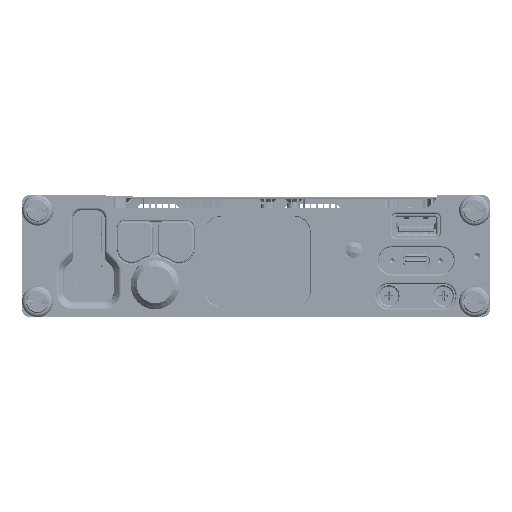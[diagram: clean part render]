
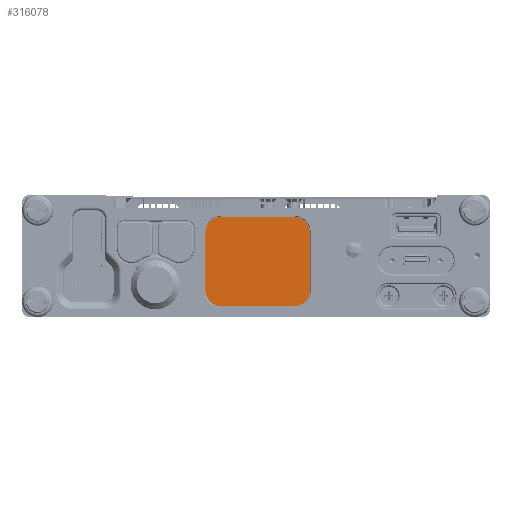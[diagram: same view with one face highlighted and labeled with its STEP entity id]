
A CAD part, top view. The second image highlights one B-rep face of the part: STEP entity #316078.
In plain terms, the highlighted planar face has unit normal (0, 0, 1).
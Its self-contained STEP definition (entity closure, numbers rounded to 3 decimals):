
#4911 = CARTESIAN_POINT ( 'NONE',  ( -8.985, -10.025, 3.48 ) ) ;
#18422 = VERTEX_POINT ( 'NONE', #301399 ) ;
#24819 = AXIS2_PLACEMENT_3D ( 'NONE', #4911, #224838, #650200 ) ;
#48424 = LINE ( 'NONE', #116708, #476666 ) ;
#60660 = ORIENTED_EDGE ( 'NONE', *, *, #175668, .T. ) ;
#70037 = CIRCLE ( 'NONE', #311857, 5. ) ;
#70892 = CARTESIAN_POINT ( 'NONE',  ( -8.985, -15.025, 3.48 ) ) ;
#72546 = VECTOR ( 'NONE', #355493, 1000. ) ;
#90923 = VERTEX_POINT ( 'NONE', #622023 ) ;
#100699 = VERTEX_POINT ( 'NONE', #264309 ) ;
#112066 = VERTEX_POINT ( 'NONE', #567278 ) ;
#112387 = DIRECTION ( 'NONE',  ( 0., 0., 1. ) ) ;
#116708 = CARTESIAN_POINT ( 'NONE',  ( -13.985, 12.605, 3.48 ) ) ;
#152757 = CIRCLE ( 'NONE', #440427, 5. ) ;
#165620 = CARTESIAN_POINT ( 'NONE',  ( -13.985, 12.605, 3.48 ) ) ;
#173762 = EDGE_CURVE ( 'NONE', #465506, #90923, #48424, .T. ) ;
#175668 = EDGE_CURVE ( 'NONE', #701615, #420831, #489744, .T. ) ;
#176154 = ORIENTED_EDGE ( 'NONE', *, *, #524682, .T. ) ;
#183670 = CIRCLE ( 'NONE', #471729, 5. ) ;
#184332 = VECTOR ( 'NONE', #312684, 1000. ) ;
#185115 = CARTESIAN_POINT ( 'NONE',  ( -8.985, -10.025, 3.48 ) ) ;
#191864 = CARTESIAN_POINT ( 'NONE',  ( 13.985, -10.025, 3.48 ) ) ;
#206682 = ORIENTED_EDGE ( 'NONE', *, *, #483286, .T. ) ;
#211171 = ORIENTED_EDGE ( 'NONE', *, *, #564313, .T. ) ;
#224838 = DIRECTION ( 'NONE',  ( 0., 0., 1. ) ) ;
#241450 = DIRECTION ( 'NONE',  ( 1., 0., 0. ) ) ;
#245574 = CARTESIAN_POINT ( 'NONE',  ( 8.985, -10.025, 3.48 ) ) ;
#254112 = EDGE_LOOP ( 'NONE', ( #558952, #584166, #275811, #60660, #206682, #176154, #211171, #373502 ) ) ;
#255235 = VERTEX_POINT ( 'NONE', #684897 ) ;
#264309 = CARTESIAN_POINT ( 'NONE',  ( 8.985, -15.025, 3.48 ) ) ;
#275811 = ORIENTED_EDGE ( 'NONE', *, *, #371239, .T. ) ;
#279235 = DIRECTION ( 'NONE',  ( 0., 0., 1. ) ) ;
#297859 = LINE ( 'NONE', #70892, #72546 ) ;
#299062 = CARTESIAN_POINT ( 'NONE',  ( 8.985, 12.605, 3.48 ) ) ;
#299457 = CARTESIAN_POINT ( 'NONE',  ( 13.985, 12.605, 3.48 ) ) ;
#301399 = CARTESIAN_POINT ( 'NONE',  ( -8.985, 17.605, 3.48 ) ) ;
#311857 = AXIS2_PLACEMENT_3D ( 'NONE', #299062, #414254, #241450 ) ;
#312684 = DIRECTION ( 'NONE',  ( -1., 0., 0. ) ) ;
#316078 = ADVANCED_FACE ( 'NONE', ( #376357 ), #596179, .T. ) ;
#340265 = DIRECTION ( 'NONE',  ( 0., 0., 1. ) ) ;
#355493 = DIRECTION ( 'NONE',  ( 1., 0., 0. ) ) ;
#363956 = VECTOR ( 'NONE', #662563, 1000. ) ;
#366534 = AXIS2_PLACEMENT_3D ( 'NONE', #245574, #279235, #499070 ) ;
#371239 = EDGE_CURVE ( 'NONE', #100699, #701615, #458652, .T. ) ;
#373502 = ORIENTED_EDGE ( 'NONE', *, *, #173762, .T. ) ;
#376357 = FACE_OUTER_BOUND ( 'NONE', #254112, .T. ) ;
#408496 = DIRECTION ( 'NONE',  ( 1., 0., 0. ) ) ;
#414254 = DIRECTION ( 'NONE',  ( 0., 0., 1. ) ) ;
#420831 = VERTEX_POINT ( 'NONE', #299457 ) ;
#440427 = AXIS2_PLACEMENT_3D ( 'NONE', #490941, #112387, #555649 ) ;
#458652 = CIRCLE ( 'NONE', #366534, 5. ) ;
#465506 = VERTEX_POINT ( 'NONE', #165620 ) ;
#467785 = LINE ( 'NONE', #633525, #184332 ) ;
#471729 = AXIS2_PLACEMENT_3D ( 'NONE', #185115, #340265, #408496 ) ;
#476666 = VECTOR ( 'NONE', #545786, 1000. ) ;
#483286 = EDGE_CURVE ( 'NONE', #420831, #112066, #70037, .T. ) ;
#489744 = LINE ( 'NONE', #651863, #363956 ) ;
#490941 = CARTESIAN_POINT ( 'NONE',  ( -8.985, 12.605, 3.48 ) ) ;
#499070 = DIRECTION ( 'NONE',  ( 1., 0., 0. ) ) ;
#524682 = EDGE_CURVE ( 'NONE', #112066, #18422, #467785, .T. ) ;
#545786 = DIRECTION ( 'NONE',  ( 0., -1., 0. ) ) ;
#551803 = EDGE_CURVE ( 'NONE', #90923, #255235, #183670, .T. ) ;
#555649 = DIRECTION ( 'NONE',  ( -1., 0., 0. ) ) ;
#558952 = ORIENTED_EDGE ( 'NONE', *, *, #551803, .T. ) ;
#564313 = EDGE_CURVE ( 'NONE', #18422, #465506, #152757, .T. ) ;
#567278 = CARTESIAN_POINT ( 'NONE',  ( 8.985, 17.605, 3.48 ) ) ;
#582401 = EDGE_CURVE ( 'NONE', #255235, #100699, #297859, .T. ) ;
#584166 = ORIENTED_EDGE ( 'NONE', *, *, #582401, .T. ) ;
#596179 = PLANE ( 'NONE',  #24819 ) ;
#622023 = CARTESIAN_POINT ( 'NONE',  ( -13.985, -10.025, 3.48 ) ) ;
#633525 = CARTESIAN_POINT ( 'NONE',  ( -8.985, 17.605, 3.48 ) ) ;
#650200 = DIRECTION ( 'NONE',  ( 1., 0., 0. ) ) ;
#651863 = CARTESIAN_POINT ( 'NONE',  ( 13.985, 12.605, 3.48 ) ) ;
#662563 = DIRECTION ( 'NONE',  ( 0., 1., 0. ) ) ;
#684897 = CARTESIAN_POINT ( 'NONE',  ( -8.985, -15.025, 3.48 ) ) ;
#701615 = VERTEX_POINT ( 'NONE', #191864 ) ;
